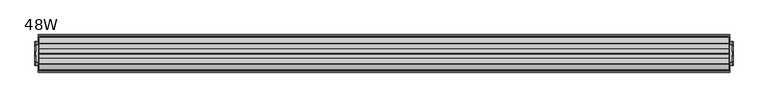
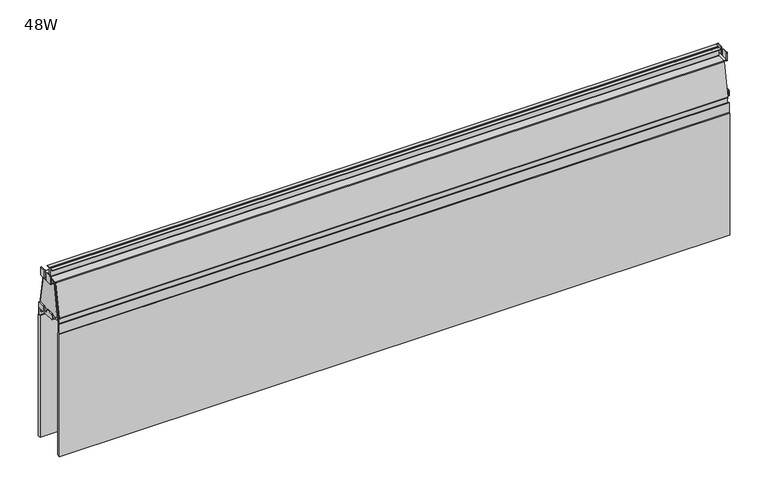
"""IFC4 building model written with IfcOpenShell, lengths in millimetres: furniture geometry, Steelcase Turnstone - Bivi - Accessories - High Sit Bracket with Modesty Panel : 48W."""

from ifc_helpers import new_model, si_unit, point, frame, frame_2d, origin, place, context, project, spatial, polyline, circle_curve, trimmed, segment, composite_curve, outline, extrude, source, transform, mapped, element, save
from ifc_brep_helpers import plane_surface, cylinder_surface, revolved_surface, advanced_brep


def furniture_48w_f59d3814(model_context):
    return source(origin(), model_context, "Body", "SolidModel", [
        extrude(outline(polyline([(1322.578, -62.4245382), (1326.9973142, -62.4245382), (1326.9973142, -102.4290731), (1322.578, -102.4290731), (1322.578, -62.4245382)])), frame((0.0, 0.0, 971.7621964), z_axis=(0.0, 0.0, 1.0), x_axis=(1.0, 0.0, 0.0)), (0.0, 0.0, 1.0), 2.2606178),
        extrude(outline(polyline([(1322.578, -67.9265279), (1326.9973142, -67.9265279), (1326.9973142, -96.8235489), (1322.578, -96.8235489), (1322.578, -67.9265279)])), frame((0.0, 0.0, 1033.6165755), z_axis=(0.0, 0.0, 1.0), x_axis=(1.0, 0.0, 0.0)), (0.0, 0.0, 1.0), 1.7477706),
        extrude(outline(composite_curve([segment(polyline([(-67.9265279, 1033.6165755), (-96.9270833, 1033.6165755), (-96.9270833, 1047.2712029)]), True, "CONTINUOUS"), segment(trimmed(circle_curve(frame_2d((-95.8530462, 1047.2712029)), 1.0740372), [point((-96.9270833, 1047.2712029))], [point((-95.8530462, 1048.3452401))], False, "CARTESIAN"), True, "CONTINUOUS"), segment(polyline([(-95.8530462, 1048.3452401), (-86.5848166, 1048.3452401)]), True, "CONTINUOUS"), segment(trimmed(circle_curve(frame_2d((-86.5848166, 1047.1882087)), 1.1570313), [point((-86.5848166, 1048.3452401))], [point((-85.4277852, 1047.1882087))], False, "CARTESIAN"), True, "CONTINUOUS"), segment(polyline([(-85.4277852, 1047.1882087), (-85.4277852, 1035.3644915), (-79.443513, 1035.3644915), (-79.443513, 1047.1627838)]), True, "CONTINUOUS"), segment(trimmed(circle_curve(frame_2d((-78.2610567, 1047.1627838)), 1.1824563), [point((-79.443513, 1047.1627838))], [point((-78.2610567, 1048.3452401))], False, "CARTESIAN"), True, "CONTINUOUS"), segment(polyline([(-78.2610567, 1048.3452401), (-68.8135699, 1048.3452401)]), True, "CONTINUOUS"), segment(trimmed(circle_curve(frame_2d((-68.8135699, 1047.4581981)), 0.887042), [point((-68.8135699, 1048.3452401))], [point((-67.9265279, 1047.4581981))], False, "CARTESIAN"), True, "CONTINUOUS"), segment(polyline([(-67.9265279, 1047.4581981), (-67.9265279, 1033.6165755)]), True, "CONTINUOUS")], self_intersect=False)), frame((1326.9973142, 0.0, 0.0), z_axis=(1.0, 0.0, 0.0), x_axis=(0.0, 1.0, 0.0)), (0.0, 0.0, 1.0), 1.4999084),
        extrude(outline(composite_curve([segment(polyline([(-76.0547241, 981.8412323), (-64.233104, 981.8412323)]), True, "CONTINUOUS"), segment(trimmed(circle_curve(frame_2d((-64.233104, 980.0326664)), 1.8085659), [point((-64.233104, 981.8412323))], [point((-62.4245382, 980.0326664))], False, "CARTESIAN"), True, "CONTINUOUS"), segment(polyline([(-62.4245382, 980.0326664), (-62.4245382, 971.7621964), (-82.4398102, 971.7621964), (-102.4290731, 971.7621964), (-102.4290731, 979.8046996)]), True, "CONTINUOUS"), segment(trimmed(circle_curve(frame_2d((-100.3925404, 979.8046996)), 2.0365327), [point((-102.4290731, 979.8046996))], [point((-100.3925404, 981.8412323))], False, "CARTESIAN"), True, "CONTINUOUS"), segment(polyline([(-100.3925404, 981.8412323), (-88.6513232, 981.8412323)]), True, "CONTINUOUS"), segment(trimmed(circle_curve(frame_2d((-88.6513232, 980.0617922)), 1.7794401), [point((-88.6513232, 981.8412323))], [point((-86.8718831, 980.0617922))], False, "CARTESIAN"), True, "CONTINUOUS"), segment(polyline([(-86.8718831, 980.0617922), (-86.8718831, 974.7655741), (-77.9817281, 974.7655741), (-77.9817281, 979.9142284)]), True, "CONTINUOUS"), segment(trimmed(circle_curve(frame_2d((-76.0547241, 979.9142284)), 1.9270039), [point((-77.9817281, 979.9142284))], [point((-76.0547241, 981.8412323))], False, "CARTESIAN"), True, "CONTINUOUS")], self_intersect=False)), frame((1326.9973142, 0.0, 0.0), z_axis=(1.0, 0.0, 0.0), x_axis=(0.0, 1.0, 0.0)), (0.0, 0.0, 1.0), 1.4999084),
        extrude(outline(polyline([(154.178, -62.4245382), (154.178, -102.4290731), (149.7586858, -102.4290731), (149.7586858, -62.4245382), (154.178, -62.4245382)])), frame((0.0, 0.0, 971.7621964), z_axis=(0.0, 0.0, 1.0), x_axis=(1.0, 0.0, 0.0)), (0.0, 0.0, 1.0), 2.2606178),
        extrude(outline(polyline([(154.178, -67.9265279), (154.178, -96.8235489), (149.7586858, -96.8235489), (149.7586858, -67.9265279), (154.178, -67.9265279)])), frame((0.0, 0.0, 1033.6165755), z_axis=(0.0, 0.0, 1.0), x_axis=(1.0, 0.0, 0.0)), (0.0, 0.0, 1.0), 1.7477706),
        extrude(outline(composite_curve([segment(polyline([(-67.9265279, 1033.6165755), (-96.9270833, 1033.6165755), (-96.9270833, 1047.2712029)]), True, "CONTINUOUS"), segment(trimmed(circle_curve(frame_2d((-95.8530462, 1047.2712029)), 1.0740372), [point((-96.9270833, 1047.2712029))], [point((-95.8530462, 1048.3452401))], False, "CARTESIAN"), True, "CONTINUOUS"), segment(polyline([(-95.8530462, 1048.3452401), (-86.5848166, 1048.3452401)]), True, "CONTINUOUS"), segment(trimmed(circle_curve(frame_2d((-86.5848166, 1047.1882087)), 1.1570313), [point((-86.5848166, 1048.3452401))], [point((-85.4277852, 1047.1882087))], False, "CARTESIAN"), True, "CONTINUOUS"), segment(polyline([(-85.4277852, 1047.1882087), (-85.4277852, 1035.3644915), (-79.443513, 1035.3644915), (-79.443513, 1047.1627838)]), True, "CONTINUOUS"), segment(trimmed(circle_curve(frame_2d((-78.2610567, 1047.1627838)), 1.1824563), [point((-79.443513, 1047.1627838))], [point((-78.2610567, 1048.3452401))], False, "CARTESIAN"), True, "CONTINUOUS"), segment(polyline([(-78.2610567, 1048.3452401), (-68.8135699, 1048.3452401)]), True, "CONTINUOUS"), segment(trimmed(circle_curve(frame_2d((-68.8135699, 1047.4581981)), 0.887042), [point((-68.8135699, 1048.3452401))], [point((-67.9265279, 1047.4581981))], False, "CARTESIAN"), True, "CONTINUOUS"), segment(polyline([(-67.9265279, 1047.4581981), (-67.9265279, 1033.6165755)]), True, "CONTINUOUS")], self_intersect=False)), frame((148.2587773, 0.0, 0.0), z_axis=(1.0, 0.0, 0.0), x_axis=(0.0, 1.0, 0.0)), (0.0, 0.0, 1.0), 1.4999084),
        extrude(outline(composite_curve([segment(polyline([(-76.0547241, 981.8412323), (-64.233104, 981.8412323)]), True, "CONTINUOUS"), segment(trimmed(circle_curve(frame_2d((-64.233104, 980.0326664)), 1.8085659), [point((-64.233104, 981.8412323))], [point((-62.4245382, 980.0326664))], False, "CARTESIAN"), True, "CONTINUOUS"), segment(polyline([(-62.4245382, 980.0326664), (-62.4245382, 971.7621964), (-82.4398102, 971.7621964), (-102.4290731, 971.7621964), (-102.4290731, 979.8046996)]), True, "CONTINUOUS"), segment(trimmed(circle_curve(frame_2d((-100.3925404, 979.8046996)), 2.0365327), [point((-102.4290731, 979.8046996))], [point((-100.3925404, 981.8412323))], False, "CARTESIAN"), True, "CONTINUOUS"), segment(polyline([(-100.3925404, 981.8412323), (-88.6513232, 981.8412323)]), True, "CONTINUOUS"), segment(trimmed(circle_curve(frame_2d((-88.6513232, 980.0617922)), 1.7794401), [point((-88.6513232, 981.8412323))], [point((-86.8718831, 980.0617922))], False, "CARTESIAN"), True, "CONTINUOUS"), segment(polyline([(-86.8718831, 980.0617922), (-86.8718831, 974.7655741), (-77.9817281, 974.7655741), (-77.9817281, 979.9142284)]), True, "CONTINUOUS"), segment(trimmed(circle_curve(frame_2d((-76.0547241, 979.9142284)), 1.9270039), [point((-77.9817281, 979.9142284))], [point((-76.0547241, 981.8412323))], False, "CARTESIAN"), True, "CONTINUOUS")], self_intersect=False)), frame((148.2587773, 0.0, 0.0), z_axis=(1.0, 0.0, 0.0), x_axis=(0.0, 1.0, 0.0)), (0.0, 0.0, 1.0), 1.4999084),
        extrude(outline(polyline([(-56.9970023, 971.7621964), (-107.8605404, 971.7621964), (-96.5348092, 1035.3644915), (-68.2124562, 1035.3644915), (-56.9970023, 971.7621964)])), frame((1320.9263308, 0.0, 0.0), z_axis=(1.0, 0.0, 0.0), x_axis=(0.0, 1.0, 0.0)), (0.0, 0.0, 1.0), 1.6516692),
        extrude(outline(polyline([(-56.9970023, 971.7621964), (-107.8605404, 971.7621964), (-96.5348351, 1035.3643461), (-68.2124305, 1035.3643461), (-56.9970023, 971.7621964)])), frame((154.178, 0.0, 0.0), z_axis=(1.0, 0.0, 0.0), x_axis=(0.0, 1.0, 0.0)), (0.0, 0.0, 1.0), 1.6516692),
        advanced_brep(
        [(1320.9263308, -80.9976272, 1037.2195381), (1320.9263308, -81.5241475, 1037.7460584), (1320.9263308, -81.5241475, 1051.4672481), (1320.9263308, -81.0144007, 1051.9769949), (1320.9263308, -74.8842427, 1051.9769949), (1320.9263308, -74.8842427, 1052.8659668), (1320.9263308, -81.2494337, 1052.8659668), (1320.9263308, -82.4700881, 1051.6453124), (1320.9263308, -83.7221189, 1052.8659668), (1320.9263308, -90.0377005, 1052.8659668), (1320.9263308, -90.0377005, 1051.9769949), (1320.9263308, -83.9075425, 1051.9769949), (1320.9263308, -83.3977957, 1051.4672481), (1320.9263308, -83.3977957, 1037.7460584), (1320.9263308, -83.924316, 1037.2195381), (1320.9263308, -99.0759081, 1037.2195381), (1320.9263308, -100.326089, 1036.1705117), (1320.9263308, -110.7579884, 977.0082706), (1320.9263308, -109.096108, 975.5931057), (1320.9263308, -109.096108, 956.4729406), (1320.9263308, -107.5729451, 956.4729406), (1320.9263308, -107.5729451, 975.5229406), (1320.9263308, -57.2806661, 975.5229406), (1320.9263308, -57.2806661, 956.4729406), (1320.9263308, -55.7575032, 956.4729406), (1320.9263308, -55.7575032, 975.5715007), (1320.9263308, -54.1639548, 977.0082706), (1320.9263308, -64.5958542, 1036.1705117), (1320.9263308, -65.8460351, 1037.2195381), (1320.9263308, -66.0050637, 1036.3263319), (1320.9263308, -65.4476181, 1035.8585795), (1320.9263308, -55.0642662, 976.9716646), (1320.9263308, -55.5332832, 976.4127119), (1320.9263308, -109.38866, 976.4127119), (1320.9263308, -109.857677, 976.9716646), (1320.9263308, -99.4743251, 1035.8585795), (1320.9263308, -98.9168795, 1036.3263319), (1320.9263308, -83.6744208, 1036.3263319), (1320.9263308, -82.5014645, 1037.4992882), (1320.9263308, -81.2971318, 1036.3263319), (155.8296692, -80.9976272, 1037.2195381), (155.8296692, -65.8460351, 1037.2195381), (155.8296692, -64.5958542, 1036.1705117), (155.8296692, -54.1639548, 977.0082706), (155.8296692, -55.7575032, 975.5715007), (155.8296692, -55.7575032, 956.4729406), (155.8296692, -57.2806661, 956.4729406), (155.8296692, -57.2806661, 975.5229406), (155.8296692, -107.5729451, 975.5229406), (155.8296692, -107.5729451, 956.4729406), (155.8296692, -109.096108, 956.4729406), (155.8296692, -109.096108, 975.5931057), (155.8296692, -110.7579884, 977.0082706), (155.8296692, -100.326089, 1036.1705117), (155.8296692, -99.0759081, 1037.2195381), (155.8296692, -83.924316, 1037.2195381), (155.8296692, -83.3977957, 1037.7460584), (155.8296692, -83.3977957, 1051.4672481), (155.8296692, -83.9075425, 1051.9769949), (155.8296692, -90.0377005, 1051.9769949), (155.8296692, -90.0377005, 1052.8659668), (155.8296692, -83.7221189, 1052.8659668), (155.8296692, -82.5014645, 1051.6453124), (155.8296692, -81.2494337, 1052.8659668), (155.8296692, -74.8842427, 1052.8659668), (155.8296692, -74.8842427, 1051.9769949), (155.8296692, -81.0144007, 1051.9769949), (155.8296692, -81.5241475, 1051.4672481), (155.8296692, -81.5241475, 1037.7460584), (155.8296692, -66.0050637, 1036.3263319), (155.8296692, -81.2971318, 1036.3263319), (155.8296692, -82.4700881, 1037.4992882), (155.8296692, -83.6744208, 1036.3263319), (155.8296692, -98.9168795, 1036.3263319), (155.8296692, -99.4743251, 1035.8585795), (155.8296692, -109.857677, 976.9716646), (155.8296692, -109.38866, 976.4127119), (155.8296692, -55.5332832, 976.4127119), (155.8296692, -55.0642662, 976.9716646), (155.8296692, -65.4476181, 1035.8585795)],
        [
            (0, 1, circle_curve(frame((1320.9263308, -80.9976272, 1037.7460584), z_axis=(-1.0, 0.0, 0.0), x_axis=(0.0, 1.0, 0.0)), 0.5265203)),
            (1, 2),
            (2, 3, circle_curve(frame((1320.9263308, -81.0144007, 1051.4672481), z_axis=(-1.0, 0.0, 0.0), x_axis=(0.0, 1.0, 0.0)), 0.5097468)),
            (3, 4),
            (4, 5),
            (5, 6),
            (6, 7, circle_curve(frame((1320.9263308, -81.2494337, 1051.6453124), z_axis=(1.0, 0.0, 0.0), x_axis=(0.0, 1.0, 0.0)), 1.2206544)),
            (7, 8, circle_curve(frame((1320.9263308, -83.7221189, 1051.6453124), z_axis=(1.0, 0.0, 0.0), x_axis=(0.0, 1.0, 0.0)), 1.2206544)),
            (8, 9),
            (9, 10),
            (10, 11),
            (11, 12, circle_curve(frame((1320.9263308, -83.9075425, 1051.4672481), z_axis=(-1.0, 0.0, 0.0), x_axis=(0.0, 1.0, 0.0)), 0.5097468)),
            (12, 13),
            (13, 14, circle_curve(frame((1320.9263308, -83.924316, 1037.7460584), z_axis=(-1.0, 0.0, 0.0), x_axis=(0.0, 1.0, 0.0)), 0.5265203)),
            (14, 15),
            (15, 16, circle_curve(frame((1320.9263308, -99.0759081, 1035.9500711), z_axis=(1.0, 0.0, 0.0), x_axis=(0.0, 1.0, 0.0)), 1.269467)),
            (16, 17),
            (17, 18, circle_curve(frame((1320.9263308, -109.5116486, 976.7885072), z_axis=(1.0, 0.0, 0.0), x_axis=(0.0, 1.0, 0.0)), 1.2655666)),
            (18, 19),
            (19, 20),
            (20, 21),
            (21, 22),
            (22, 23),
            (23, 24),
            (24, 25),
            (25, 26, circle_curve(frame((1320.9263308, -55.4102946, 976.7885072), z_axis=(1.0, 0.0, 0.0), x_axis=(0.0, 1.0, 0.0)), 1.2655666)),
            (26, 27),
            (27, 28, circle_curve(frame((1320.9263308, -65.8460351, 1035.9500711), z_axis=(1.0, 0.0, 0.0), x_axis=(0.0, 1.0, 0.0)), 1.269467)),
            (28, 0),
            (29, 30, circle_curve(frame((1320.9263308, -66.0050637, 1035.7602868), z_axis=(-1.0, 0.0, 0.0), x_axis=(0.0, 1.0, 0.0)), 0.5660451)),
            (30, 31),
            (31, 32, circle_curve(frame((1320.9263308, -55.5332832, 976.8889643), z_axis=(-1.0, 0.0, 0.0), x_axis=(0.0, 1.0, 0.0)), 0.4762524)),
            (32, 33),
            (33, 34, circle_curve(frame((1320.9263308, -109.38866, 976.8889643), z_axis=(-1.0, 0.0, 0.0), x_axis=(0.0, 1.0, 0.0)), 0.4762524)),
            (34, 35),
            (35, 36, circle_curve(frame((1320.9263308, -98.9168795, 1035.7602868), z_axis=(-1.0, 0.0, 0.0), x_axis=(0.0, 1.0, 0.0)), 0.5660451)),
            (36, 37),
            (37, 38, circle_curve(frame((1320.9263308, -83.6744208, 1037.4992882), z_axis=(1.0, 0.0, 0.0), x_axis=(0.0, 1.0, 0.0)), 1.1729562)),
            (38, 39, circle_curve(frame((1320.9263308, -81.2971318, 1037.4992882), z_axis=(1.0, 0.0, 0.0), x_axis=(0.0, 1.0, 0.0)), 1.1729562)),
            (39, 29),
            (40, 41),
            (41, 42, circle_curve(frame((155.8296692, -65.8460351, 1035.9500711), z_axis=(-1.0, 0.0, 0.0), x_axis=(0.0, 1.0, 0.0)), 1.269467)),
            (42, 43),
            (43, 44, circle_curve(frame((155.8296692, -55.4102946, 976.7885072), z_axis=(-1.0, 0.0, 0.0), x_axis=(0.0, 1.0, 0.0)), 1.2655666)),
            (44, 45),
            (45, 46),
            (46, 47),
            (47, 48),
            (48, 49),
            (49, 50),
            (50, 51),
            (51, 52, circle_curve(frame((155.8296692, -109.5116486, 976.7885072), z_axis=(-1.0, 0.0, 0.0), x_axis=(0.0, 1.0, 0.0)), 1.2655666)),
            (52, 53),
            (53, 54, circle_curve(frame((155.8296692, -99.0759081, 1035.9500711), z_axis=(-1.0, 0.0, 0.0), x_axis=(0.0, 1.0, 0.0)), 1.269467)),
            (54, 55),
            (55, 56, circle_curve(frame((155.8296692, -83.924316, 1037.7460584), z_axis=(1.0, 0.0, 0.0), x_axis=(0.0, 1.0, 0.0)), 0.5265203)),
            (56, 57),
            (57, 58, circle_curve(frame((155.8296692, -83.9075425, 1051.4672481), z_axis=(1.0, 0.0, 0.0), x_axis=(0.0, 1.0, 0.0)), 0.5097468)),
            (58, 59),
            (59, 60),
            (60, 61),
            (61, 62, circle_curve(frame((155.8296692, -83.7221189, 1051.6453124), z_axis=(-1.0, 0.0, 0.0), x_axis=(0.0, 1.0, 0.0)), 1.2206544)),
            (62, 63, circle_curve(frame((155.8296692, -81.2494337, 1051.6453124), z_axis=(-1.0, 0.0, 0.0), x_axis=(0.0, 1.0, 0.0)), 1.2206544)),
            (63, 64),
            (64, 65),
            (65, 66),
            (66, 67, circle_curve(frame((155.8296692, -81.0144007, 1051.4672481), z_axis=(1.0, 0.0, 0.0), x_axis=(0.0, 1.0, 0.0)), 0.5097468)),
            (67, 68),
            (68, 40, circle_curve(frame((155.8296692, -80.9976272, 1037.7460584), z_axis=(1.0, 0.0, 0.0), x_axis=(0.0, 1.0, 0.0)), 0.5265203)),
            (69, 70),
            (70, 71, circle_curve(frame((155.8296692, -81.2971318, 1037.4992882), z_axis=(-1.0, 0.0, 0.0), x_axis=(0.0, 1.0, 0.0)), 1.1729562)),
            (71, 72, circle_curve(frame((155.8296692, -83.6744208, 1037.4992882), z_axis=(-1.0, 0.0, 0.0), x_axis=(0.0, 1.0, 0.0)), 1.1729562)),
            (72, 73),
            (73, 74, circle_curve(frame((155.8296692, -98.9168795, 1035.7602868), z_axis=(1.0, 0.0, 0.0), x_axis=(0.0, 1.0, 0.0)), 0.5660451)),
            (74, 75),
            (75, 76, circle_curve(frame((155.8296692, -109.38866, 976.8889643), z_axis=(1.0, 0.0, 0.0), x_axis=(0.0, 1.0, 0.0)), 0.4762524)),
            (76, 77),
            (77, 78, circle_curve(frame((155.8296692, -55.5332832, 976.8889643), z_axis=(1.0, 0.0, 0.0), x_axis=(0.0, 1.0, 0.0)), 0.4762524)),
            (78, 79),
            (79, 69, circle_curve(frame((155.8296692, -66.0050637, 1035.7602868), z_axis=(1.0, 0.0, 0.0), x_axis=(0.0, 1.0, 0.0)), 0.5660451)),
            (0, 40),
            (68, 1),
            (67, 2),
            (66, 3),
            (65, 4),
            (64, 5),
            (63, 6),
            (62, 7),
            (61, 8),
            (60, 9),
            (59, 10),
            (58, 11),
            (57, 12),
            (56, 13),
            (55, 14),
            (54, 15),
            (53, 16),
            (52, 17),
            (51, 18),
            (50, 19),
            (49, 20),
            (48, 21),
            (47, 22),
            (46, 23),
            (45, 24),
            (44, 25),
            (43, 26),
            (42, 27),
            (41, 28),
            (29, 69),
            (79, 30),
            (78, 31),
            (77, 32),
            (76, 33),
            (75, 34),
            (74, 35),
            (73, 36),
            (72, 37),
            (71, 38),
            (70, 39),
        ],
        [
            plane_surface(frame((1320.9263308, -80.4711069, 1037.7460584), z_axis=(1.0, 0.0, 0.0), x_axis=(0.0, 0.0, -1.0))),
            plane_surface(frame((155.8296692, -80.4711069, 1037.7460584), z_axis=(-1.0, 0.0, 0.0), x_axis=(0.0, 0.0, 1.0))),
            revolved_surface(polyline([(155.8296692, -80.4711069, 1037.7460584), (1320.9263308, -80.4711069, 1037.7460584)]), (155.8296692, -80.9976272, 1037.7460584), (-1.0, 0.0, 0.0)),
            plane_surface(frame((1320.9263308, -81.5241475, 1037.7460584), z_axis=(0.0, 1.0, 0.0), x_axis=(-1.0, 0.0, 0.0))),
            revolved_surface(polyline([(155.8296692, -80.5046539, 1051.4672481), (1320.9263308, -80.5046539, 1051.4672481)]), (155.8296692, -81.0144007, 1051.4672481), (-1.0, 0.0, 0.0)),
            plane_surface(frame((1320.9263308, -81.0144007, 1051.9769949), z_axis=(0.0, 0.0, -1.0), x_axis=(-1.0, 0.0, 0.0))),
            plane_surface(frame((1320.9263308, -74.8842427, 1051.9769949), z_axis=(0.0, 1.0, 0.0), x_axis=(-1.0, 0.0, 0.0))),
            plane_surface(frame((1320.9263308, -74.8842427, 1052.8659668), z_axis=(0.0, 0.0, 1.0), x_axis=(-1.0, 0.0, 0.0))),
            cylinder_surface(frame((155.8296692, -81.2494337, 1051.6453124), z_axis=(1.0, 0.0, 0.0), x_axis=(0.0, 1.0, 0.0)), 1.2206544),
            cylinder_surface(frame((155.8296692, -83.7221189, 1051.6453124), z_axis=(1.0, 0.0, 0.0), x_axis=(0.0, 1.0, 0.0)), 1.2206544),
            plane_surface(frame((1320.9263308, -83.7221189, 1052.8659668), z_axis=(0.0, 0.0, 1.0), x_axis=(-1.0, 0.0, 0.0))),
            plane_surface(frame((1320.9263308, -90.0377005, 1052.8659668), z_axis=(0.0, -1.0, 0.0), x_axis=(-1.0, 0.0, 0.0))),
            plane_surface(frame((1320.9263308, -90.0377005, 1051.9769949), z_axis=(0.0, 0.0, -1.0), x_axis=(-1.0, 0.0, 0.0))),
            revolved_surface(polyline([(155.8296692, -83.3977957, 1051.4672481), (1320.9263308, -83.3977957, 1051.4672481)]), (155.8296692, -83.9075425, 1051.4672481), (-1.0, 0.0, 0.0)),
            plane_surface(frame((1320.9263308, -83.3977957, 1051.4672481), z_axis=(0.0, -1.0, 0.0), x_axis=(-1.0, 0.0, 0.0))),
            revolved_surface(polyline([(155.8296692, -83.3977957, 1037.7460584), (1320.9263308, -83.3977957, 1037.7460584)]), (155.8296692, -83.924316, 1037.7460584), (-1.0, 0.0, 0.0)),
            plane_surface(frame((1320.9263308, -83.924316, 1037.2195381), z_axis=(0.0, 0.0, 1.0), x_axis=(-1.0, 0.0, 0.0))),
            cylinder_surface(frame((155.8296692, -99.0759081, 1035.9500711), z_axis=(1.0, 0.0, 0.0), x_axis=(0.0, 1.0, 0.0)), 1.269467),
            plane_surface(frame((1320.9263308, -100.326089, 1036.1705117), z_axis=(0.0, -0.9848077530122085, 0.17364817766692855), x_axis=(-1.0, 0.0, 0.0))),
            cylinder_surface(frame((155.8296692, -109.5116486, 976.7885072), z_axis=(1.0, 0.0, 0.0), x_axis=(0.0, 1.0, 0.0)), 1.2655666),
            plane_surface(frame((1320.9263308, -109.096108, 975.5931057), z_axis=(0.0, -1.0, 0.0), x_axis=(-1.0, 0.0, 0.0))),
            plane_surface(frame((1320.9263308, -109.096108, 956.4729406), z_axis=(0.0, 0.0, -1.0), x_axis=(-1.0, 0.0, 0.0))),
            plane_surface(frame((1320.9263308, -107.5729451, 956.4729406), z_axis=(0.0, 1.0, 0.0), x_axis=(-1.0, 0.0, 0.0))),
            plane_surface(frame((1320.9263308, -107.5729451, 975.5229406), z_axis=(0.0, 0.0, -1.0), x_axis=(-1.0, 0.0, 0.0))),
            plane_surface(frame((1320.9263308, -57.2806661, 975.5229406), z_axis=(0.0, -1.0, 0.0), x_axis=(-1.0, 0.0, 0.0))),
            plane_surface(frame((1320.9263308, -57.2806661, 956.4729406), z_axis=(0.0, 0.0, -1.0), x_axis=(-1.0, 0.0, 0.0))),
            plane_surface(frame((1320.9263308, -55.7575032, 956.4729406), z_axis=(0.0, 1.0, 0.0), x_axis=(-1.0, 0.0, 0.0))),
            cylinder_surface(frame((155.8296692, -55.4102946, 976.7885072), z_axis=(1.0, 0.0, 0.0), x_axis=(0.0, 1.0, 0.0)), 1.2655666),
            plane_surface(frame((1320.9263308, -54.1639548, 977.0082706), z_axis=(0.0, 0.9848077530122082, 0.17364817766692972), x_axis=(-1.0, 0.0, 0.0))),
            cylinder_surface(frame((155.8296692, -65.8460351, 1035.9500711), z_axis=(1.0, 0.0, 0.0), x_axis=(0.0, 1.0, 0.0)), 1.269467),
            plane_surface(frame((1320.9263308, -65.8460351, 1037.2195381), z_axis=(0.0, 0.0, 1.0), x_axis=(-1.0, 0.0, 0.0))),
            revolved_surface(polyline([(155.8296692, -65.4390186, 1035.7602868), (1320.9263308, -65.4390186, 1035.7602868)]), (154.178, -66.0050637, 1035.7602868), (-1.0, 0.0, 0.0)),
            plane_surface(frame((1320.9263308, -65.4476181, 1035.8585795), z_axis=(0.0, -0.9848077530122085, -0.17364817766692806), x_axis=(-1.0, 0.0, 0.0))),
            revolved_surface(polyline([(155.8296692, -55.0570308, 976.8889643), (1320.9263308, -55.0570308, 976.8889643)]), (154.178, -55.5332832, 976.8889643), (-1.0, 0.0, 0.0)),
            plane_surface(frame((1320.9263308, -55.5332832, 976.4127119), z_axis=(0.0, 0.0, 1.0), x_axis=(-1.0, 0.0, 0.0))),
            revolved_surface(polyline([(155.8296692, -108.9124076, 976.8889643), (1320.9263308, -108.9124076, 976.8889643)]), (154.178, -109.38866, 976.8889643), (-1.0, 0.0, 0.0)),
            plane_surface(frame((1320.9263308, -109.857677, 976.9716646), z_axis=(0.0, 0.9848077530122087, -0.17364817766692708), x_axis=(-1.0, 0.0, 0.0))),
            revolved_surface(polyline([(155.8296692, -98.3508344, 1035.7602868), (1320.9263308, -98.3508344, 1035.7602868)]), (154.178, -98.9168795, 1035.7602868), (-1.0, 0.0, 0.0)),
            plane_surface(frame((1320.9263308, -98.9168795, 1036.3263319), z_axis=(0.0, 0.0, -1.0), x_axis=(-1.0, 0.0, 0.0))),
            cylinder_surface(frame((154.178, -83.6744208, 1037.4992882), z_axis=(1.0, 0.0, 0.0), x_axis=(0.0, 1.0, 0.0)), 1.1729562),
            cylinder_surface(frame((154.178, -81.2971318, 1037.4992882), z_axis=(1.0, 0.0, 0.0), x_axis=(0.0, 1.0, 0.0)), 1.1729562),
            plane_surface(frame((1320.9263308, -81.2971318, 1036.3263319), z_axis=(0.0, 0.0, -1.0), x_axis=(-1.0, 0.0, 0.0))),
        ],
        [
            (0, [[1, 2, 3, 4, 5, 6, 7, 8, 9, 10, 11, 12, 13, 14, 15, 16, 17, 18, 19, 20, 21, 22, 23, 24, 25, 26, 27, 28, 29], [30, 31, 32, 33, 34, 35, 36, 37, 38, 39, 40]]),
            (1, [[41, 42, 43, 44, 45, 46, 47, 48, 49, 50, 51, 52, 53, 54, 55, 56, 57, 58, 59, 60, 61, 62, 63, 64, 65, 66, 67, 68, 69], [70, 71, 72, 73, 74, 75, 76, 77, 78, 79, 80]]),
            (2, [[-1, 81, -69, 82]]),
            (3, [[-2, -82, -68, 83]]),
            (4, [[-3, -83, -67, 84]]),
            (5, [[-4, -84, -66, 85]]),
            (6, [[-5, -85, -65, 86]]),
            (7, [[-6, -86, -64, 87]]),
            (8, [[-7, -87, -63, 88]]),
            (9, [[-8, -88, -62, 89]]),
            (10, [[-9, -89, -61, 90]]),
            (11, [[-10, -90, -60, 91]]),
            (12, [[-11, -91, -59, 92]]),
            (13, [[-12, -92, -58, 93]]),
            (14, [[-13, -93, -57, 94]]),
            (15, [[-14, -94, -56, 95]]),
            (16, [[-15, -95, -55, 96]]),
            (17, [[-16, -96, -54, 97]]),
            (18, [[-17, -97, -53, 98]]),
            (19, [[-18, -98, -52, 99]]),
            (20, [[-19, -99, -51, 100]]),
            (21, [[-20, -100, -50, 101]]),
            (22, [[-21, -101, -49, 102]]),
            (23, [[-22, -102, -48, 103]]),
            (24, [[-23, -103, -47, 104]]),
            (25, [[-24, -104, -46, 105]]),
            (26, [[-25, -105, -45, 106]]),
            (27, [[-26, -106, -44, 107]]),
            (28, [[-27, -107, -43, 108]]),
            (29, [[-28, -108, -42, 109]]),
            (30, [[-29, -109, -41, -81]]),
            (31, [[-30, 110, -80, 111]]),
            (32, [[-31, -111, -79, 112]]),
            (33, [[-32, -112, -78, 113]]),
            (34, [[-33, -113, -77, 114]]),
            (35, [[-34, -114, -76, 115]]),
            (36, [[-35, -115, -75, 116]]),
            (37, [[-36, -116, -74, 117]]),
            (38, [[-37, -117, -73, 118]]),
            (39, [[-38, -118, -72, 119]]),
            (40, [[-39, -119, -71, 120]]),
            (41, [[-40, -120, -70, -110]]),
        ],
    ),
        extrude(outline(polyline([(-54.1343465, 967.1858042), (-52.6693197, 967.1858042), (-52.6693197, 949.6150017), (-50.6089803, 949.6150017), (-50.6089803, 724.5711073), (-56.1923604, 724.5711073), (-56.1923604, 949.6150017), (-54.1343465, 949.6150017), (-54.1343465, 967.1858042)])), frame((154.178, 0.0, 0.0), z_axis=(1.0, 0.0, 0.0), x_axis=(0.0, 1.0, 0.0)), (0.0, 0.0, 1.0), 1168.4),
        extrude(outline(polyline([(-110.7215902, 967.1858042), (-110.7215902, 949.6150017), (-108.6635762, 949.6150017), (-108.6635762, 724.5711073), (-114.2469564, 724.5711073), (-114.2469564, 949.6150017), (-112.186617, 949.6150017), (-112.186617, 967.1858042), (-110.7215902, 967.1858042)])), frame((154.178, 0.0, 0.0), z_axis=(1.0, 0.0, 0.0), x_axis=(0.0, 1.0, 0.0)), (0.0, 0.0, 1.0), 1168.4),
    ])


if __name__ == "__main__":
    model = new_model("IFC4")
    model_context = context("Model", 3, world=origin())
    ifc_project = project(units=[si_unit("LENGTHUNIT", "METRE", prefix="MILLI")], contexts=[model_context])
    site = spatial("IfcSite", under=ifc_project)
    building = spatial("IfcBuilding", under=site)
    placement = place(None, origin())
    furniture_48w_shape = furniture_48w_f59d3814(model_context)
    element("IfcFurniture", 1, ObjectType="Steelcase Turnstone - Bivi - Accessories - High Sit Bracket with Modesty Panel : 48W", at=placement, inside=building, context=model_context, shape_type="MappedRepresentation", body=[
        mapped(furniture_48w_shape, transform((0.0, 0.0, 0.0), x_axis=(1.0, 0.0, 0.0), y_axis=(0.0, 1.0, 0.0), z_axis=(0.0, 0.0, 1.0))),
    ])
    save(model, "model.ifc")
